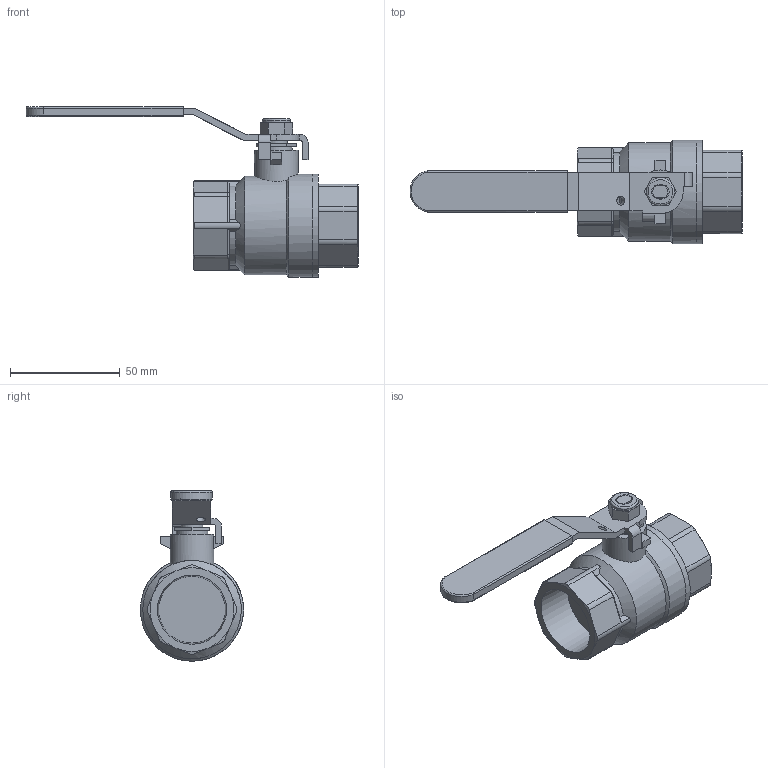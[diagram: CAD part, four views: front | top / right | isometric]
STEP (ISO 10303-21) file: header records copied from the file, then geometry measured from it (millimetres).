
FILE_DESCRIPTION((' '),'2;1');
FILE_NAME('N:\Technical Support\Private\Jomar Valve CAD\Ball Valves\Brass\1.0 JF-100T (100-105)FusionCopy.stp.step','2016-04-27T16:42:54',(' '),(' '),' ','ACIS',' ');
FILE_SCHEMA(('CONFIG_CONTROL_DESIGN'));
Length unit declared in the file: inch
Products named in the file (8): N:\Technical Support\Private\Jomar Valve CAD\Ball Valves\Brass\1.0 JF-100T (100-105)FusionCopy.stp.step; Body1; Body2; Body3; Body4; Body5; Body6; Body7
Assembly tree (7 placements, depth 2):
  N:\Technical Support\Private\Jomar Valve CAD\Ball Valves\Brass\1.0 JF-100T (100-105)FusionCopy.stp.step
    Body1
    Body2
    Body3
    Body4
    Body5
    Body6
    Body7
Bounding box: 151.11 x 46.99 x 77.61 mm (x, y, z)
Volume: 97547.5 mm3; surface area: 31441.3 mm2
Topology: 7 solids, 7 shells, 189 faces, 460 edges, 291 vertices
Faces by surface type: plane 97, cylinder 53, cone 25, torus 7, bspline 7
Full cylindrical faces by diameter (mm): 4.064 x1, 6.858 x1, 9.906 x1, 10.16 x1, 12.751 x1, 14.478 x1, 19.939 x1, 44.831 x1, 46.99 x2
Entity records: 6686 total; most frequent: CARTESIAN_POINT 1362, DIRECTION 877, ORIENTED_EDGE 876, EDGE_CURVE 438, AXIS2_PLACEMENT_3D 323, VERTEX_POINT 283, VECTOR 231, LINE 231
